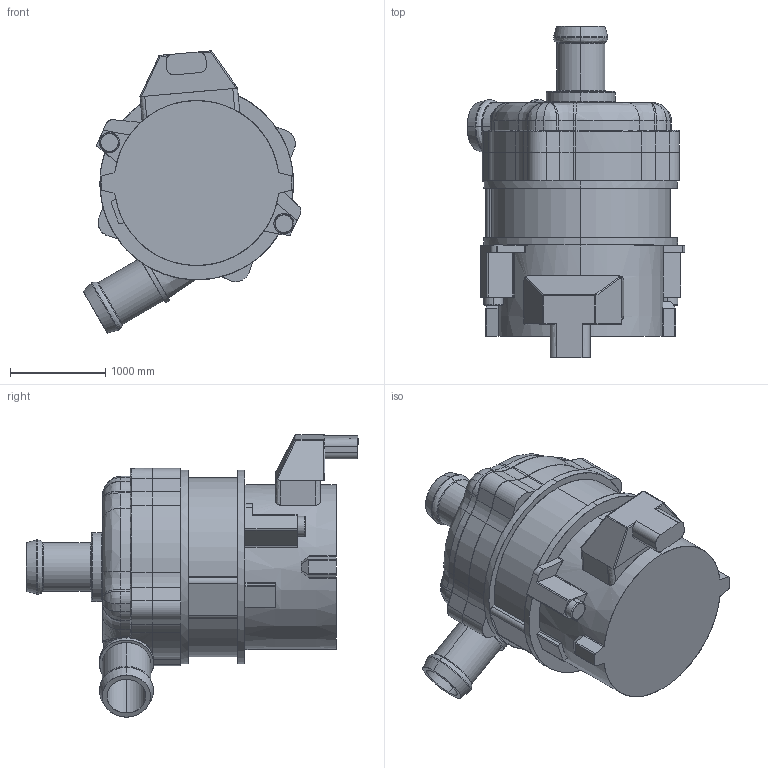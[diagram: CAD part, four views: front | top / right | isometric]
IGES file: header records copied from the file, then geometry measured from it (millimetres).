
Start section: Tecomotive IGES file using analytic representation for surfaces
Global section: file name: 7H                                                                                                                                   CWA50.IGS; native system: Tecomotive 2018; preprocessor: Tecomotive 2018; author:          ; date: 180310.001147; units: millimetre
Bounding box: 2285.11 x 3484.88 x 2962.7 mm (x, y, z)
Surface area: 29884656.7 mm2 (no closed solid volume)
Topology: 0 solids, 0 shells, 367 faces, 4094 edges, 4090 vertices
Faces by surface type: revolution 188, bspline 179
